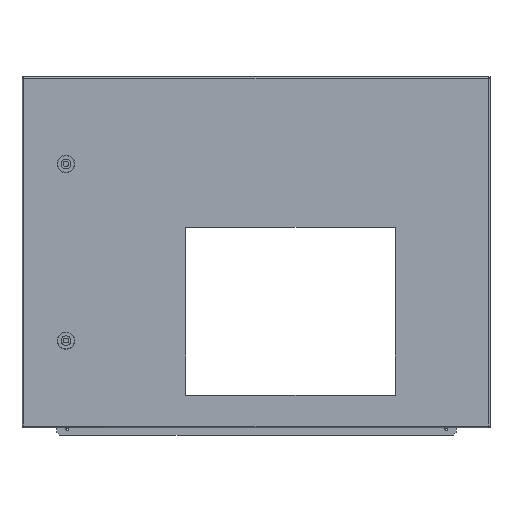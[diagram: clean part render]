
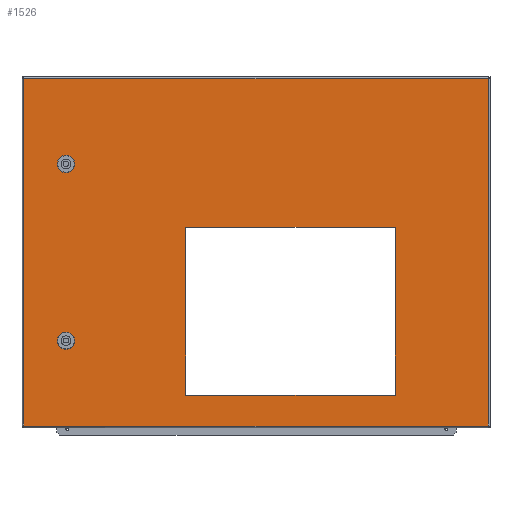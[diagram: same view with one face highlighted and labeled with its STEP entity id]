
A CAD part, top view. The second image highlights one B-rep face of the part: STEP entity #1526.
In plain terms, the highlighted planar face has unit normal (0, 0, 1).
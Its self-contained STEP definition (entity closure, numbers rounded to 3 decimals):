
#1081=CARTESIAN_POINT(' ',(277.5,55.,0.));
#1086=DIRECTION(' ',(1.,0.,0.));
#1091=VECTOR(' ',#1086,1.);
#1096=LINE('',#1081,#1091);
#1101=CARTESIAN_POINT(' ',(277.5,55.,0.));
#1102=VERTEX_POINT(' ',#1101);
#1106=CARTESIAN_POINT(' ',(633.5,55.,0.));
#1107=VERTEX_POINT(' ',#1106);
#1111=EDGE_CURVE(' ',#1102,#1107,#1096,.T.);
#1236=DIRECTION(' ',(-0.,-0.,1.));
#1241=CARTESIAN_POINT(' ',(791.2,2.8,0.));
#1246=DIRECTION(' ',(0.,1.,0.));
#1251=AXIS2_PLACEMENT_3D(' ',#1241,#1236,#1246);
#1256=PLANE('NONE',#1251);
#1261=CARTESIAN_POINT(' ',(2.8,2.8,0.));
#1266=DIRECTION(' ',(1.,0.,0.));
#1271=VECTOR(' ',#1266,1.);
#1276=LINE('',#1261,#1271);
#1281=CARTESIAN_POINT(' ',(2.8,2.8,0.));
#1282=VERTEX_POINT(' ',#1281);
#1286=CARTESIAN_POINT(' ',(791.2,2.8,0.));
#1287=VERTEX_POINT(' ',#1286);
#1291=EDGE_CURVE(' ',#1282,#1287,#1276,.T.);
#1296=ORIENTED_EDGE(' ',*,*,#1291,.T.);
#1301=CARTESIAN_POINT(' ',(791.2,592.2,0.));
#1306=DIRECTION(' ',(0.,-1.,0.));
#1311=VECTOR(' ',#1306,1.);
#1316=LINE('',#1301,#1311);
#1321=CARTESIAN_POINT(' ',(791.2,592.2,0.));
#1322=VERTEX_POINT(' ',#1321);
#1326=EDGE_CURVE(' ',#1322,#1287,#1316,.T.);
#1331=ORIENTED_EDGE(' ',*,*,#1326,.F.);
#1336=CARTESIAN_POINT(' ',(791.2,592.2,0.));
#1341=DIRECTION(' ',(-1.,0.,0.));
#1346=VECTOR(' ',#1341,1.);
#1351=LINE('',#1336,#1346);
#1356=CARTESIAN_POINT(' ',(2.8,592.2,0.));
#1357=VERTEX_POINT(' ',#1356);
#1361=EDGE_CURVE(' ',#1322,#1357,#1351,.T.);
#1366=ORIENTED_EDGE(' ',*,*,#1361,.T.);
#1371=CARTESIAN_POINT(' ',(2.8,592.2,0.));
#1376=DIRECTION(' ',(0.,-1.,0.));
#1381=VECTOR(' ',#1376,1.);
#1386=LINE('',#1371,#1381);
#1391=EDGE_CURVE(' ',#1357,#1282,#1386,.T.);
#1396=ORIENTED_EDGE(' ',*,*,#1391,.T.);
#1401=EDGE_LOOP(' ',(#1296,#1331,#1366,#1396));
#1406=FACE_OUTER_BOUND(' ',#1401,.T.);
#1411=CARTESIAN_POINT(' ',(633.5,340.,0.));
#1416=DIRECTION(' ',(-1.,0.,0.));
#1421=VECTOR(' ',#1416,1.);
#1426=LINE('',#1411,#1421);
#1431=CARTESIAN_POINT(' ',(633.5,340.,0.));
#1432=VERTEX_POINT(' ',#1431);
#1436=CARTESIAN_POINT(' ',(277.5,340.,0.));
#1437=VERTEX_POINT(' ',#1436);
#1441=EDGE_CURVE(' ',#1432,#1437,#1426,.T.);
#1446=ORIENTED_EDGE(' ',*,*,#1441,.F.);
#1451=CARTESIAN_POINT(' ',(633.5,55.,0.));
#1456=DIRECTION(' ',(0.,1.,0.));
#1461=VECTOR(' ',#1456,1.);
#1466=LINE('',#1451,#1461);
#1471=EDGE_CURVE(' ',#1107,#1432,#1466,.T.);
#1476=ORIENTED_EDGE(' ',*,*,#1471,.F.);
#1481=ORIENTED_EDGE(' ',*,*,#1111,.F.);
#1486=CARTESIAN_POINT(' ',(277.5,340.,0.));
#1491=DIRECTION(' ',(0.,-1.,0.));
#1496=VECTOR(' ',#1491,1.);
#1501=LINE('',#1486,#1496);
#1506=EDGE_CURVE(' ',#1437,#1102,#1501,.T.);
#1511=ORIENTED_EDGE(' ',*,*,#1506,.F.);
#1516=EDGE_LOOP(' ',(#1446,#1476,#1481,#1511));
#1521=FACE_BOUND(' ',#1516,.T.);
#1526=ADVANCED_FACE('NONE',(#1406,#1521),#1256,.T.);
